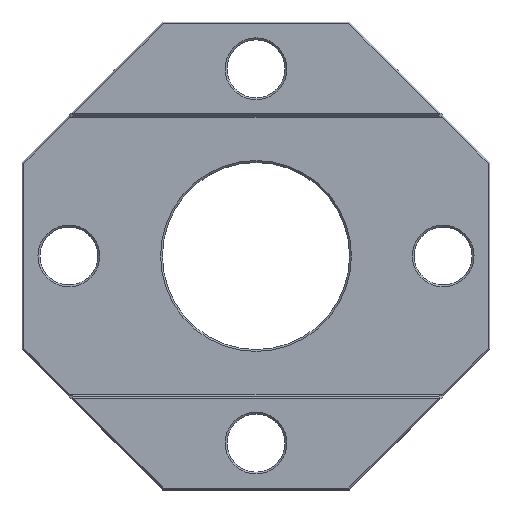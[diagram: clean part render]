
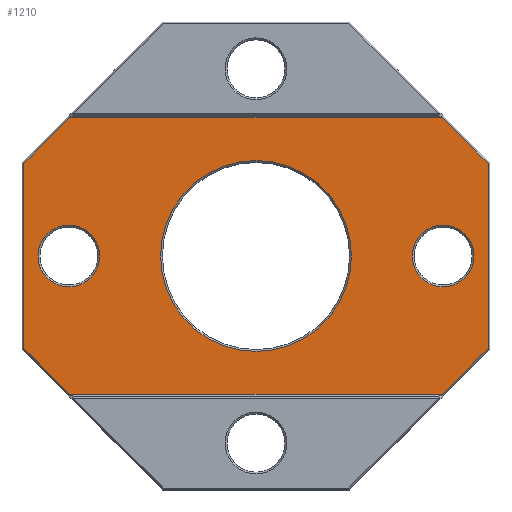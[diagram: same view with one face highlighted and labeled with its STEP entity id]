
A CAD part, top view. The second image highlights one B-rep face of the part: STEP entity #1210.
In plain terms, the highlighted planar face has unit normal (0, 0, 1).
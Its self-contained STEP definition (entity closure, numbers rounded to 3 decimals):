
#1 = CARTESIAN_POINT ( 'NONE',  ( -16.7, 0., 8. ) ) ;
#130 = DIRECTION ( 'NONE',  ( 0.707, -0.707, 0. ) ) ;
#166 = ORIENTED_EDGE ( 'NONE', *, *, #1966, .T. ) ;
#177 = DIRECTION ( 'NONE',  ( 0., 0., -1. ) ) ;
#194 = EDGE_CURVE ( 'NONE', #200, #1078, #2215, .T. ) ;
#200 = VERTEX_POINT ( 'NONE', #490 ) ;
#253 = VERTEX_POINT ( 'NONE', #700 ) ;
#258 = DIRECTION ( 'NONE',  ( 1., 0., 0. ) ) ;
#290 = DIRECTION ( 'NONE',  ( 0., 0., -1. ) ) ;
#335 = EDGE_LOOP ( 'NONE', ( #339, #2156 ) ) ;
#339 = ORIENTED_EDGE ( 'NONE', *, *, #2418, .T. ) ;
#369 = DIRECTION ( 'NONE',  ( -0.707, -0.707, 0. ) ) ;
#385 = ORIENTED_EDGE ( 'NONE', *, *, #194, .T. ) ;
#405 = CIRCLE ( 'NONE', #1997, 3.3 ) ;
#428 = FACE_OUTER_BOUND ( 'NONE', #2145, .T. ) ;
#468 = EDGE_CURVE ( 'NONE', #525, #1948, #2460, .T. ) ;
#490 = CARTESIAN_POINT ( 'NONE',  ( 19.917, -14.8, 8. ) ) ;
#512 = CARTESIAN_POINT ( 'NONE',  ( 0., -14.8, 8. ) ) ;
#513 = VERTEX_POINT ( 'NONE', #1912 ) ;
#514 = DIRECTION ( 'NONE',  ( 0., 0., -1. ) ) ;
#525 = VERTEX_POINT ( 'NONE', #1463 ) ;
#532 = AXIS2_PLACEMENT_3D ( 'NONE', #1953, #2612, #258 ) ;
#533 = EDGE_CURVE ( 'NONE', #571, #1962, #2751, .T. ) ;
#553 = EDGE_CURVE ( 'NONE', #253, #1434, #1054, .T. ) ;
#571 = VERTEX_POINT ( 'NONE', #806 ) ;
#598 = DIRECTION ( 'NONE',  ( 0., 0., -1. ) ) ;
#602 = VECTOR ( 'NONE', #1701, 1000. ) ;
#625 = VERTEX_POINT ( 'NONE', #2352 ) ;
#654 = ORIENTED_EDGE ( 'NONE', *, *, #1441, .T. ) ;
#659 = PLANE ( 'NONE',  #532 ) ;
#700 = CARTESIAN_POINT ( 'NONE',  ( 10.2, 0., 8. ) ) ;
#769 = LINE ( 'NONE', #2478, #1349 ) ;
#806 = CARTESIAN_POINT ( 'NONE',  ( 24.8, 9.917, 8. ) ) ;
#808 = CARTESIAN_POINT ( 'NONE',  ( -24.8, -10., 8. ) ) ;
#810 = ORIENTED_EDGE ( 'NONE', *, *, #1872, .T. ) ;
#820 = DIRECTION ( 'NONE',  ( 1., 0., 0. ) ) ;
#846 = CARTESIAN_POINT ( 'NONE',  ( -19.917, 14.8, 8. ) ) ;
#918 = ORIENTED_EDGE ( 'NONE', *, *, #1268, .T. ) ;
#941 = EDGE_CURVE ( 'NONE', #2325, #1954, #1860, .T. ) ;
#957 = ORIENTED_EDGE ( 'NONE', *, *, #2014, .T. ) ;
#971 = DIRECTION ( 'NONE',  ( 1., 0., 0. ) ) ;
#983 = CARTESIAN_POINT ( 'NONE',  ( -20., 0., 8. ) ) ;
#986 = CIRCLE ( 'NONE', #2572, 3.3 ) ;
#995 = VECTOR ( 'NONE', #1577, 1000. ) ;
#1033 = CARTESIAN_POINT ( 'NONE',  ( -20., 0., 8. ) ) ;
#1046 = CIRCLE ( 'NONE', #1854, 10.2 ) ;
#1047 = CARTESIAN_POINT ( 'NONE',  ( -10.2, 0., 8. ) ) ;
#1051 = ORIENTED_EDGE ( 'NONE', *, *, #941, .T. ) ;
#1054 = CIRCLE ( 'NONE', #1639, 10.2 ) ;
#1058 = VERTEX_POINT ( 'NONE', #2318 ) ;
#1067 = CARTESIAN_POINT ( 'NONE',  ( 20., 0., 8. ) ) ;
#1078 = VERTEX_POINT ( 'NONE', #1721 ) ;
#1127 = VERTEX_POINT ( 'NONE', #1 ) ;
#1164 = DIRECTION ( 'NONE',  ( 0.707, 0.707, 0. ) ) ;
#1204 = CARTESIAN_POINT ( 'NONE',  ( -24.8, 9.917, 8. ) ) ;
#1210 = ADVANCED_FACE ( 'NONE', ( #428, #1498, #2362, #1299 ), #659, .T. ) ;
#1223 = VECTOR ( 'NONE', #2467, 1000. ) ;
#1268 = EDGE_CURVE ( 'NONE', #1962, #2325, #2206, .T. ) ;
#1275 = CARTESIAN_POINT ( 'NONE',  ( 17.359, 17.359, 8. ) ) ;
#1299 = FACE_BOUND ( 'NONE', #2140, .T. ) ;
#1349 = VECTOR ( 'NONE', #130, 1000. ) ;
#1383 = DIRECTION ( 'NONE',  ( 1., 0., 0. ) ) ;
#1434 = VERTEX_POINT ( 'NONE', #1047 ) ;
#1435 = CARTESIAN_POINT ( 'NONE',  ( 19.917, 14.8, 8. ) ) ;
#1441 = EDGE_CURVE ( 'NONE', #625, #1127, #2274, .T. ) ;
#1463 = CARTESIAN_POINT ( 'NONE',  ( 16.7, 0., 8. ) ) ;
#1498 = FACE_BOUND ( 'NONE', #1839, .T. ) ;
#1577 = DIRECTION ( 'NONE',  ( -1., 0., 0. ) ) ;
#1589 = VECTOR ( 'NONE', #1383, 1000. ) ;
#1595 = VECTOR ( 'NONE', #2566, 1000. ) ;
#1623 = CARTESIAN_POINT ( 'NONE',  ( 20., 0., 8. ) ) ;
#1639 = AXIS2_PLACEMENT_3D ( 'NONE', #2526, #598, #820 ) ;
#1666 = DIRECTION ( 'NONE',  ( 0., 0., -1. ) ) ;
#1701 = DIRECTION ( 'NONE',  ( 0., -1., 0. ) ) ;
#1721 = CARTESIAN_POINT ( 'NONE',  ( 24.8, -9.917, 8. ) ) ;
#1774 = VECTOR ( 'NONE', #1164, 1000. ) ;
#1778 = AXIS2_PLACEMENT_3D ( 'NONE', #1033, #1666, #2734 ) ;
#1807 = LINE ( 'NONE', #2681, #1223 ) ;
#1839 = EDGE_LOOP ( 'NONE', ( #2049, #654 ) ) ;
#1854 = AXIS2_PLACEMENT_3D ( 'NONE', #2240, #290, #2023 ) ;
#1860 = LINE ( 'NONE', #2277, #2218 ) ;
#1865 = EDGE_CURVE ( 'NONE', #1434, #253, #1046, .T. ) ;
#1872 = EDGE_CURVE ( 'NONE', #1078, #571, #1807, .T. ) ;
#1912 = CARTESIAN_POINT ( 'NONE',  ( -24.8, -9.917, 8. ) ) ;
#1948 = VERTEX_POINT ( 'NONE', #2514 ) ;
#1949 = LINE ( 'NONE', #808, #602 ) ;
#1953 = CARTESIAN_POINT ( 'NONE',  ( 0., 0., 8. ) ) ;
#1954 = VERTEX_POINT ( 'NONE', #1204 ) ;
#1962 = VERTEX_POINT ( 'NONE', #1435 ) ;
#1965 = CARTESIAN_POINT ( 'NONE',  ( 0., 14.8, 8. ) ) ;
#1966 = EDGE_CURVE ( 'NONE', #1058, #200, #2742, .T. ) ;
#1982 = EDGE_CURVE ( 'NONE', #1127, #625, #405, .T. ) ;
#1997 = AXIS2_PLACEMENT_3D ( 'NONE', #983, #2034, #971 ) ;
#2014 = EDGE_CURVE ( 'NONE', #1954, #513, #1949, .T. ) ;
#2023 = DIRECTION ( 'NONE',  ( 1., 0., 0. ) ) ;
#2034 = DIRECTION ( 'NONE',  ( 0., 0., -1. ) ) ;
#2049 = ORIENTED_EDGE ( 'NONE', *, *, #1982, .T. ) ;
#2092 = AXIS2_PLACEMENT_3D ( 'NONE', #1067, #177, #2787 ) ;
#2140 = EDGE_LOOP ( 'NONE', ( #2199, #2153 ) ) ;
#2145 = EDGE_LOOP ( 'NONE', ( #918, #1051, #957, #2511, #166, #385, #810, #2307 ) ) ;
#2153 = ORIENTED_EDGE ( 'NONE', *, *, #1865, .T. ) ;
#2156 = ORIENTED_EDGE ( 'NONE', *, *, #468, .T. ) ;
#2199 = ORIENTED_EDGE ( 'NONE', *, *, #553, .T. ) ;
#2206 = LINE ( 'NONE', #1965, #995 ) ;
#2215 = LINE ( 'NONE', #2439, #1774 ) ;
#2218 = VECTOR ( 'NONE', #369, 1000. ) ;
#2240 = CARTESIAN_POINT ( 'NONE',  ( 0., 0., 8. ) ) ;
#2250 = DIRECTION ( 'NONE',  ( 1., 0., 0. ) ) ;
#2274 = CIRCLE ( 'NONE', #1778, 3.3 ) ;
#2277 = CARTESIAN_POINT ( 'NONE',  ( -17.359, 17.359, 8. ) ) ;
#2307 = ORIENTED_EDGE ( 'NONE', *, *, #533, .T. ) ;
#2318 = CARTESIAN_POINT ( 'NONE',  ( -19.917, -14.8, 8. ) ) ;
#2325 = VERTEX_POINT ( 'NONE', #846 ) ;
#2352 = CARTESIAN_POINT ( 'NONE',  ( -23.3, 0., 8. ) ) ;
#2362 = FACE_BOUND ( 'NONE', #335, .T. ) ;
#2418 = EDGE_CURVE ( 'NONE', #1948, #525, #986, .T. ) ;
#2435 = EDGE_CURVE ( 'NONE', #513, #1058, #769, .T. ) ;
#2439 = CARTESIAN_POINT ( 'NONE',  ( 17.359, -17.359, 8. ) ) ;
#2460 = CIRCLE ( 'NONE', #2092, 3.3 ) ;
#2467 = DIRECTION ( 'NONE',  ( 0., 1., 0. ) ) ;
#2478 = CARTESIAN_POINT ( 'NONE',  ( -17.359, -17.359, 8. ) ) ;
#2511 = ORIENTED_EDGE ( 'NONE', *, *, #2435, .T. ) ;
#2514 = CARTESIAN_POINT ( 'NONE',  ( 23.3, 0., 8. ) ) ;
#2526 = CARTESIAN_POINT ( 'NONE',  ( 0., 0., 8. ) ) ;
#2566 = DIRECTION ( 'NONE',  ( -0.707, 0.707, 0. ) ) ;
#2572 = AXIS2_PLACEMENT_3D ( 'NONE', #1623, #514, #2250 ) ;
#2612 = DIRECTION ( 'NONE',  ( 0., 0., 1. ) ) ;
#2681 = CARTESIAN_POINT ( 'NONE',  ( 24.8, 10., 8. ) ) ;
#2734 = DIRECTION ( 'NONE',  ( 1., 0., 0. ) ) ;
#2742 = LINE ( 'NONE', #512, #1589 ) ;
#2751 = LINE ( 'NONE', #1275, #1595 ) ;
#2787 = DIRECTION ( 'NONE',  ( 1., 0., 0. ) ) ;
